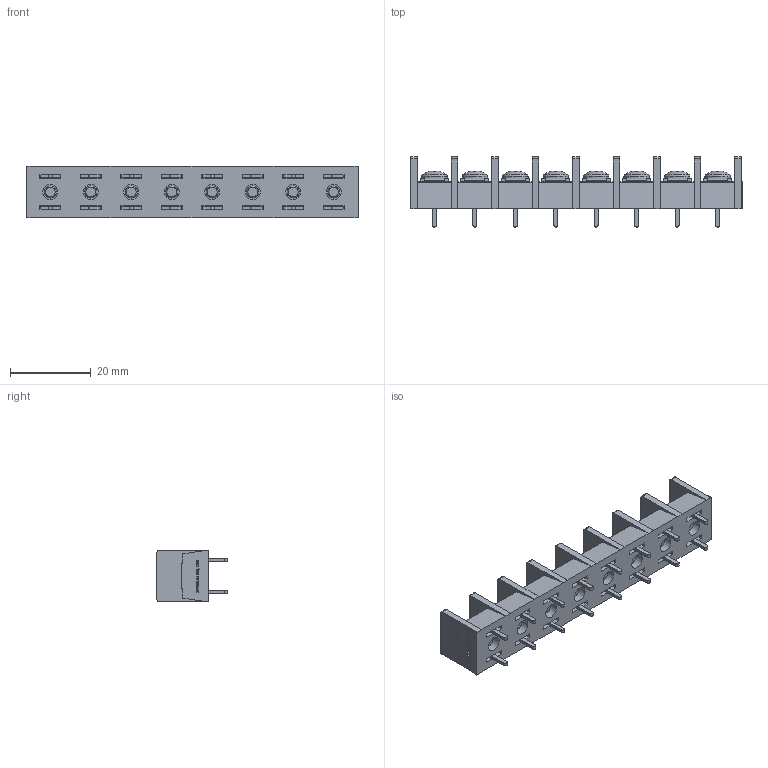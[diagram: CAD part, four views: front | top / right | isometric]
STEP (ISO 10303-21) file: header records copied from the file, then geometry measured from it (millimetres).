
FILE_DESCRIPTION(/* description */ ('Alibre Inc.'),/* implementation_level */ '2;1');
FILE_NAME(/* name */ 'export0',/* time_stamp */ '2015-10-23T18:04:07+09:00',/* author */ (''),/* organization */ (''),/* preprocessor_version */ 'ST-DEVELOPER v14',/* originating_system */ 'Alibre',/* authorisation */ '');
FILE_SCHEMA (('CONFIG_CONTROL_DESIGN'));
Length unit declared in the file: centimetre
Products named in the file (1): ID_1
Bounding box: 82 x 17.3 x 12.8 mm (x, y, z)
Volume: 7633.4 mm3; surface area: 9063 mm2
Topology: 1 solids, 137 shells, 2670 faces, 6856 edges, 4532 vertices
Faces by surface type: plane 1996, bspline 520, cylinder 90, cone 40, torus 16, sphere 8
Full cylindrical faces by diameter (mm): 3 x16, 3.7 x8, 4.6 x8, 6.3 x8
Entity records: 77145 total; most frequent: CARTESIAN_POINT 18633, ORIENTED_EDGE 13568, DIRECTION 8076, EDGE_CURVE 6784, VECTOR 5218, LINE 5218, VERTEX_POINT 4524, EDGE_LOOP 2918
